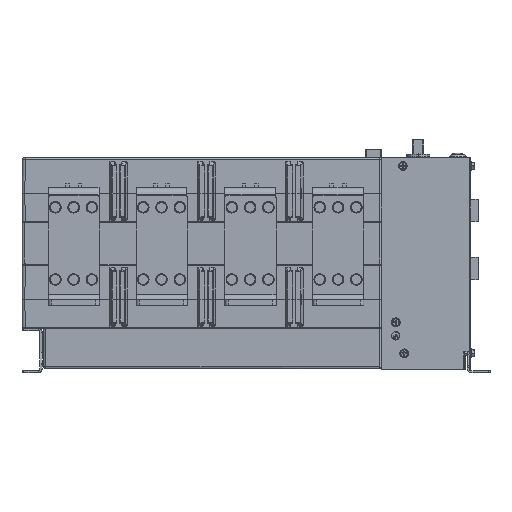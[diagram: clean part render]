
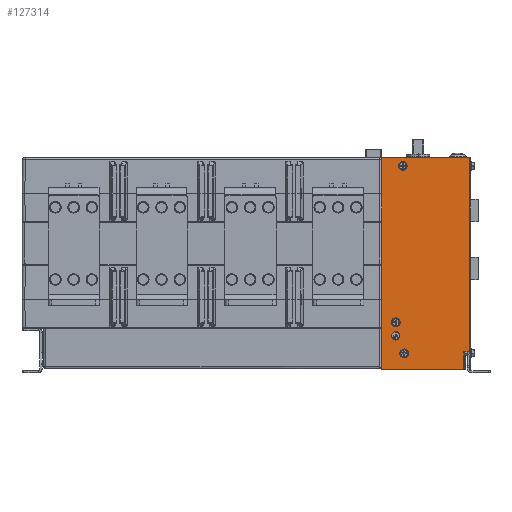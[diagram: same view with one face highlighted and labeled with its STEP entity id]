
A CAD part, left-side view. The second image highlights one B-rep face of the part: STEP entity #127314.
In plain terms, the highlighted planar face has unit normal (-1, 0, 0) as drawn and (1, 0, 0) by its records, which use the part's own axes.
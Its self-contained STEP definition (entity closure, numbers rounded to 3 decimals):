
#125942=DIRECTION('',(0.,0.,-1.));
#125943=VECTOR('',#125942,265.);
#125944=CARTESIAN_POINT('',(101.,2.,120.5));
#125945=LINE('',#125944,#125943);
#125951=DIRECTION('',(0.,1.,0.));
#125952=VECTOR('',#125951,120.);
#125953=CARTESIAN_POINT('',(101.,2.,-144.5));
#125954=LINE('',#125953,#125952);
#125959=DIRECTION('',(0.,1.,0.));
#125960=VECTOR('',#125959,8.);
#125961=CARTESIAN_POINT('',(101.,2.,120.5));
#125962=LINE('',#125961,#125960);
#125963=DIRECTION('',(0.,1.,0.));
#125964=VECTOR('',#125963,112.);
#125965=CARTESIAN_POINT('',(101.,10.,144.5));
#125966=LINE('',#125965,#125964);
#125967=DIRECTION('',(0.,0.,-1.));
#125968=VECTOR('',#125967,289.);
#125969=CARTESIAN_POINT('',(101.,122.,144.5));
#125970=LINE('',#125969,#125968);
#125971=CARTESIAN_POINT('',(101.,93.,-133.5));
#125972=DIRECTION('',(1.,0.,0.));
#125973=DIRECTION('',(0.,0.,-1.));
#125974=AXIS2_PLACEMENT_3D('',#125971,#125972,#125973);
#125976=CARTESIAN_POINT('',(101.,93.,-133.5));
#125977=DIRECTION('',(1.,0.,0.));
#125978=DIRECTION('',(0.,0.,1.));
#125979=AXIS2_PLACEMENT_3D('',#125976,#125977,#125978);
#125981=CARTESIAN_POINT('',(101.,91.,122.5));
#125982=DIRECTION('',(1.,0.,0.));
#125983=DIRECTION('',(0.,0.,-1.));
#125984=AXIS2_PLACEMENT_3D('',#125981,#125982,#125983);
#125986=CARTESIAN_POINT('',(101.,91.,122.5));
#125987=DIRECTION('',(1.,0.,0.));
#125988=DIRECTION('',(0.,0.,1.));
#125989=AXIS2_PLACEMENT_3D('',#125986,#125987,#125988);
#125991=CARTESIAN_POINT('',(101.,102.642,80.068));
#125992=DIRECTION('',(1.,0.,0.));
#125993=DIRECTION('',(0.,0.,-1.));
#125994=AXIS2_PLACEMENT_3D('',#125991,#125992,#125993);
#125996=CARTESIAN_POINT('',(101.,102.642,80.068));
#125997=DIRECTION('',(1.,0.,0.));
#125998=DIRECTION('',(0.,0.,1.));
#125999=AXIS2_PLACEMENT_3D('',#125996,#125997,#125998);
#126001=CARTESIAN_POINT('',(101.,102.642,98.56));
#126002=DIRECTION('',(1.,0.,0.));
#126003=DIRECTION('',(0.,-1.,0.));
#126004=AXIS2_PLACEMENT_3D('',#126001,#126002,#126003);
#126006=CARTESIAN_POINT('',(101.,102.642,98.56));
#126007=DIRECTION('',(1.,0.,0.));
#126008=DIRECTION('',(0.,1.,0.));
#126009=AXIS2_PLACEMENT_3D('',#126006,#126007,#126008);
#126250=DIRECTION('',(0.,0.,-1.));
#126251=VECTOR('',#126250,24.);
#126252=CARTESIAN_POINT('',(101.,10.,144.5));
#126253=LINE('',#126252,#126251);
#126864=CARTESIAN_POINT('',(101.,2.,-144.5));
#126865=VERTEX_POINT('',#126864);
#126868=CARTESIAN_POINT('',(101.,2.,120.5));
#126869=VERTEX_POINT('',#126868);
#126870=CARTESIAN_POINT('',(101.,122.,-144.5));
#126871=VERTEX_POINT('',#126870);
#126878=CARTESIAN_POINT('',(101.,10.,120.5));
#126879=VERTEX_POINT('',#126878);
#126880=CARTESIAN_POINT('',(101.,10.,144.5));
#126881=VERTEX_POINT('',#126880);
#126882=CARTESIAN_POINT('',(101.,122.,144.5));
#126883=VERTEX_POINT('',#126882);
#126884=CARTESIAN_POINT('',(101.,93.,-137.));
#126885=CARTESIAN_POINT('',(101.,93.,-130.));
#126886=VERTEX_POINT('',#126884);
#126887=VERTEX_POINT('',#126885);
#126888=CARTESIAN_POINT('',(101.,91.,119.));
#126889=CARTESIAN_POINT('',(101.,91.,126.));
#126890=VERTEX_POINT('',#126888);
#126891=VERTEX_POINT('',#126889);
#126892=CARTESIAN_POINT('',(101.,102.642,76.568));
#126893=CARTESIAN_POINT('',(101.,102.642,83.568));
#126894=VERTEX_POINT('',#126892);
#126895=VERTEX_POINT('',#126893);
#126896=CARTESIAN_POINT('',(101.,96.952,98.56));
#126897=CARTESIAN_POINT('',(101.,108.332,98.56));
#126898=VERTEX_POINT('',#126896);
#126899=VERTEX_POINT('',#126897);
#127273=CARTESIAN_POINT('',(101.,0.,144.5));
#127274=DIRECTION('',(1.,0.,0.));
#127275=DIRECTION('',(0.,0.,-1.));
#127276=AXIS2_PLACEMENT_3D('',#127273,#127274,#127275);
#127277=PLANE('',#127276);
#127278=ORIENTED_EDGE('',*,*,#127248,.F.);
#127280=ORIENTED_EDGE('',*,*,#127279,.T.);
#127282=ORIENTED_EDGE('',*,*,#127281,.F.);
#127284=ORIENTED_EDGE('',*,*,#127283,.T.);
#127286=ORIENTED_EDGE('',*,*,#127285,.T.);
#127287=ORIENTED_EDGE('',*,*,#127259,.F.);
#127288=EDGE_LOOP('',(#127278,#127280,#127282,#127284,#127286,#127287));
#127289=FACE_OUTER_BOUND('',#127288,.F.);
#127291=ORIENTED_EDGE('',*,*,#127290,.T.);
#127293=ORIENTED_EDGE('',*,*,#127292,.T.);
#127294=EDGE_LOOP('',(#127291,#127293));
#127295=FACE_BOUND('',#127294,.F.);
#127297=ORIENTED_EDGE('',*,*,#127296,.T.);
#127299=ORIENTED_EDGE('',*,*,#127298,.T.);
#127300=EDGE_LOOP('',(#127297,#127299));
#127301=FACE_BOUND('',#127300,.F.);
#127303=ORIENTED_EDGE('',*,*,#127302,.T.);
#127305=ORIENTED_EDGE('',*,*,#127304,.T.);
#127306=EDGE_LOOP('',(#127303,#127305));
#127307=FACE_BOUND('',#127306,.F.);
#127309=ORIENTED_EDGE('',*,*,#127308,.T.);
#127311=ORIENTED_EDGE('',*,*,#127310,.T.);
#127312=EDGE_LOOP('',(#127309,#127311));
#127313=FACE_BOUND('',#127312,.F.);
#125975=CIRCLE('',#125974,3.5);
#125980=CIRCLE('',#125979,3.5);
#125985=CIRCLE('',#125984,3.5);
#125990=CIRCLE('',#125989,3.5);
#125995=CIRCLE('',#125994,3.5);
#126000=CIRCLE('',#125999,3.5);
#126005=CIRCLE('',#126004,5.69);
#126010=CIRCLE('',#126009,5.69);
#127248=EDGE_CURVE('',#126869,#126865,#125945,.T.);
#127259=EDGE_CURVE('',#126865,#126871,#125954,.T.);
#127279=EDGE_CURVE('',#126869,#126879,#125962,.T.);
#127281=EDGE_CURVE('',#126881,#126879,#126253,.T.);
#127283=EDGE_CURVE('',#126881,#126883,#125966,.T.);
#127285=EDGE_CURVE('',#126883,#126871,#125970,.T.);
#127290=EDGE_CURVE('',#126886,#126887,#125975,.T.);
#127292=EDGE_CURVE('',#126887,#126886,#125980,.T.);
#127296=EDGE_CURVE('',#126890,#126891,#125985,.T.);
#127298=EDGE_CURVE('',#126891,#126890,#125990,.T.);
#127302=EDGE_CURVE('',#126894,#126895,#125995,.T.);
#127304=EDGE_CURVE('',#126895,#126894,#126000,.T.);
#127308=EDGE_CURVE('',#126898,#126899,#126005,.T.);
#127310=EDGE_CURVE('',#126899,#126898,#126010,.T.);
#127314=ADVANCED_FACE('',(#127289,#127295,#127301,#127307,#127313),#127277,.T.);
